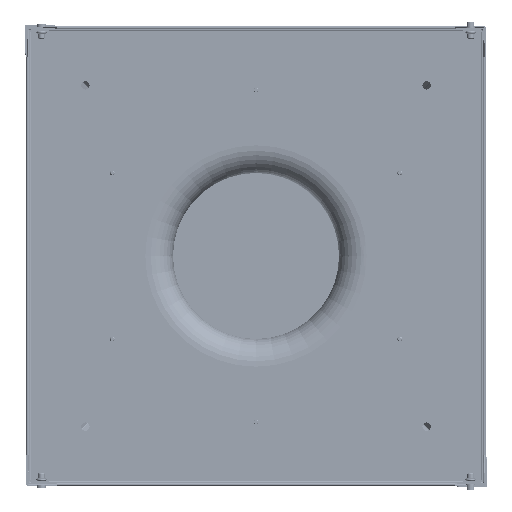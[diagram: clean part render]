
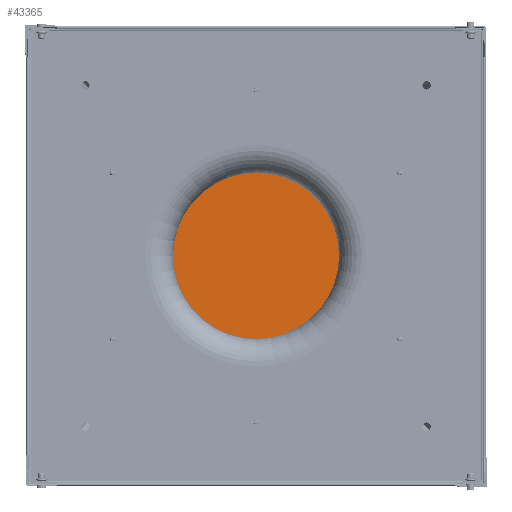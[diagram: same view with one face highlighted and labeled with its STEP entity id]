
A CAD part, front view. The second image highlights one B-rep face of the part: STEP entity #43365.
In plain terms, the highlighted planar face has unit normal (0, -1, 0).
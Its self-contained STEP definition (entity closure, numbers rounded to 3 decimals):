
#16433 = DIRECTION ( 'NONE',  ( 0., 1., 0. ) ) ;
#26857 = EDGE_LOOP ( 'NONE', ( #324370, #132671, #38842, #152853 ) ) ;
#36254 = CARTESIAN_POINT ( 'NONE',  ( -132.776, 557.292, 132.776 ) ) ;
#38427 = VERTEX_POINT ( 'NONE', #191079 ) ;
#38842 = ORIENTED_EDGE ( 'NONE', *, *, #57478, .F. ) ;
#43365 = ADVANCED_FACE ( 'NONE', ( #315723 ), #317031, .F. ) ;
#57478 = EDGE_CURVE ( 'NONE', #142357, #38427, #152213, .T. ) ;
#75668 = CARTESIAN_POINT ( 'NONE',  ( 132.776, 557.292, 132.776 ) ) ;
#86502 = CARTESIAN_POINT ( 'NONE',  ( -132.776, 557.292, -132.776 ) ) ;
#98136 = EDGE_CURVE ( 'NONE', #167601, #142357, #204472, .T. ) ;
#104333 = VECTOR ( 'NONE', #301578, 1000. ) ;
#132671 = ORIENTED_EDGE ( 'NONE', *, *, #225434, .F. ) ;
#133696 = DIRECTION ( 'NONE',  ( -1., 0., 0. ) ) ;
#142357 = VERTEX_POINT ( 'NONE', #229589 ) ;
#148754 = VECTOR ( 'NONE', #349899, 1000. ) ;
#152213 = LINE ( 'NONE', #351631, #216526 ) ;
#152853 = ORIENTED_EDGE ( 'NONE', *, *, #98136, .F. ) ;
#167601 = VERTEX_POINT ( 'NONE', #206536 ) ;
#176432 = AXIS2_PLACEMENT_3D ( 'NONE', #180472, #16433, #208078 ) ;
#180472 = CARTESIAN_POINT ( 'NONE',  ( 0., 557.292, 0. ) ) ;
#191079 = CARTESIAN_POINT ( 'NONE',  ( -132.776, 557.292, -132.776 ) ) ;
#198974 = LINE ( 'NONE', #86502, #344728 ) ;
#204472 = LINE ( 'NONE', #75668, #148754 ) ;
#206536 = CARTESIAN_POINT ( 'NONE',  ( 132.776, 557.292, 132.776 ) ) ;
#208078 = DIRECTION ( 'NONE',  ( 0., 0., 1. ) ) ;
#216526 = VECTOR ( 'NONE', #133696, 1000. ) ;
#218919 = CARTESIAN_POINT ( 'NONE',  ( -132.776, 557.292, 132.776 ) ) ;
#225434 = EDGE_CURVE ( 'NONE', #38427, #234896, #198974, .T. ) ;
#229589 = CARTESIAN_POINT ( 'NONE',  ( 132.776, 557.292, -132.776 ) ) ;
#231619 = EDGE_CURVE ( 'NONE', #234896, #167601, #258465, .T. ) ;
#234896 = VERTEX_POINT ( 'NONE', #36254 ) ;
#258465 = LINE ( 'NONE', #218919, #104333 ) ;
#278043 = DIRECTION ( 'NONE',  ( 0., 0., 1. ) ) ;
#301578 = DIRECTION ( 'NONE',  ( 1., 0., 0. ) ) ;
#315723 = FACE_OUTER_BOUND ( 'NONE', #26857, .T. ) ;
#317031 = PLANE ( 'NONE',  #176432 ) ;
#324370 = ORIENTED_EDGE ( 'NONE', *, *, #231619, .F. ) ;
#344728 = VECTOR ( 'NONE', #278043, 1000. ) ;
#349899 = DIRECTION ( 'NONE',  ( 0., 0., -1. ) ) ;
#351631 = CARTESIAN_POINT ( 'NONE',  ( 132.776, 557.292, -132.776 ) ) ;
